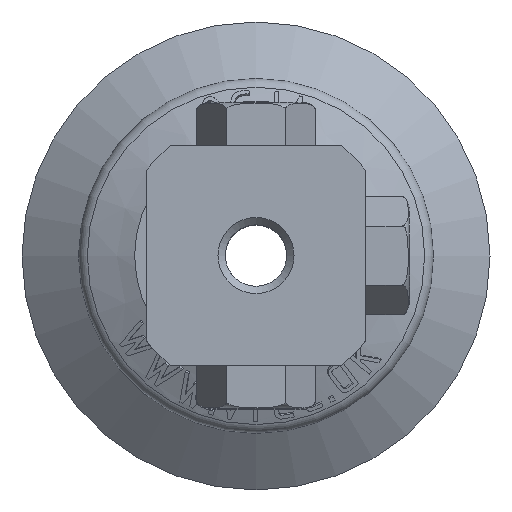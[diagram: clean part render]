
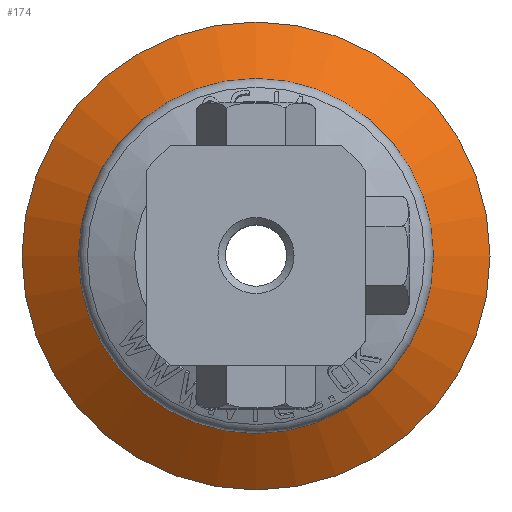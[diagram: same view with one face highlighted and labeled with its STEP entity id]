
A CAD part, top view. The second image highlights one B-rep face of the part: STEP entity #174.
In plain terms, the highlighted conical face has half-angle 53.66 degrees and reference radius 12.136 mm.
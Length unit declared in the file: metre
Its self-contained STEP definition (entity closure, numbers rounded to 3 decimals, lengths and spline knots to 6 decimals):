
#174 = ADVANCED_FACE( '', ( #433, #434 ), #435, .T. );
#433 = FACE_BOUND( '', #1007, .T. );
#434 = FACE_OUTER_BOUND( '', #1008, .T. );
#435 = CONICAL_SURFACE( '', #1009, 0.012136, 0.937 );
#1007 = EDGE_LOOP( '', ( #5441 ) );
#1008 = EDGE_LOOP( '', ( #5442 ) );
#1009 = AXIS2_PLACEMENT_3D( '', #5443, #5444, #5445 );
#5441 = ORIENTED_EDGE( '', *, *, #6984, .F. );
#5442 = ORIENTED_EDGE( '', *, *, #6985, .T. );
#5443 = CARTESIAN_POINT( '', ( 0., 0., -0.002158 ) );
#5444 = DIRECTION( '', ( 0., 0., -1. ) );
#5445 = DIRECTION( '', ( -1., 0., 0. ) );
#6984 = EDGE_CURVE( '', #7584, #7584, #7585, .T. );
#6985 = EDGE_CURVE( '', #7586, #7586, #7587, .T. );
#7584 = VERTEX_POINT( '', #8744 );
#7585 = CIRCLE( '', #8745, 0.012136 );
#7586 = VERTEX_POINT( '', #8746 );
#7587 = CIRCLE( '', #8747, 0.016 );
#8744 = CARTESIAN_POINT( '', ( 0.012136, 0., -0.002158 ) );
#8745 = AXIS2_PLACEMENT_3D( '', #12360, #12361, #12362 );
#8746 = CARTESIAN_POINT( '', ( 0.016, 0., -0.005 ) );
#8747 = AXIS2_PLACEMENT_3D( '', #12363, #12364, #12365 );
#12360 = CARTESIAN_POINT( '', ( 0., 0., -0.002158 ) );
#12361 = DIRECTION( '', ( 0., 0., 1. ) );
#12362 = DIRECTION( '', ( 1., 0., 0. ) );
#12363 = CARTESIAN_POINT( '', ( 0., 0., -0.005 ) );
#12364 = DIRECTION( '', ( 0., 0., 1. ) );
#12365 = DIRECTION( '', ( 1., 0., 0. ) );
